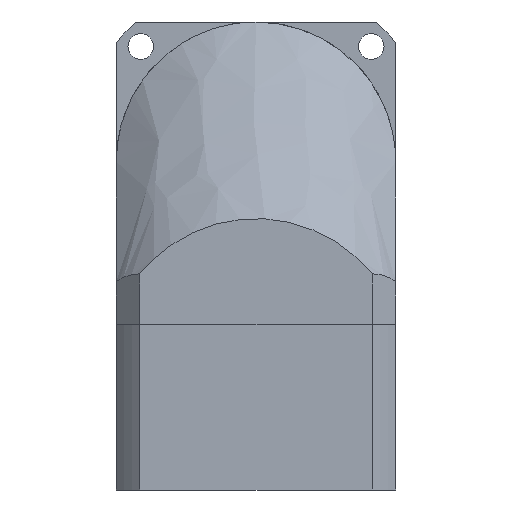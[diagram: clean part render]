
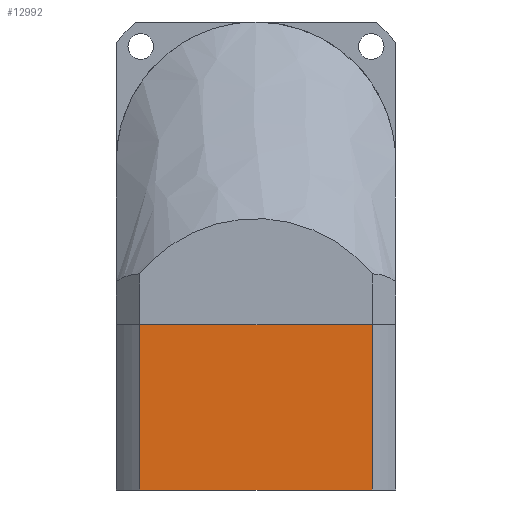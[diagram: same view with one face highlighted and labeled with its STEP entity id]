
A CAD part, front view. The second image highlights one B-rep face of the part: STEP entity #12992.
In plain terms, the highlighted planar face has unit normal (0, -1, 0).
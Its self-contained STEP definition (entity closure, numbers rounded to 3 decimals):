
#650 = VERTEX_POINT ( 'NONE', #2393 ) ;
#717 = VERTEX_POINT ( 'NONE', #13779 ) ;
#868 = VERTEX_POINT ( 'NONE', #3408 ) ;
#1683 = VECTOR ( 'NONE', #11335, 1000. ) ;
#2038 = CARTESIAN_POINT ( 'NONE',  ( 0., -30., 0. ) ) ;
#2115 = CARTESIAN_POINT ( 'NONE',  ( 0., -30., -35.5 ) ) ;
#2393 = CARTESIAN_POINT ( 'NONE',  ( 24.92, -30., -35.5 ) ) ;
#2399 = LINE ( 'NONE', #13134, #16640 ) ;
#2411 = EDGE_CURVE ( 'NONE', #18561, #650, #2399, .T. ) ;
#2553 = FACE_OUTER_BOUND ( 'NONE', #18918, .T. ) ;
#3408 = CARTESIAN_POINT ( 'NONE',  ( -24.92, -30., -35.5 ) ) ;
#3760 = LINE ( 'NONE', #2115, #20013 ) ;
#4090 = AXIS2_PLACEMENT_3D ( 'NONE', #16444, #11230, #19141 ) ;
#4419 = ORIENTED_EDGE ( 'NONE', *, *, #7458, .T. ) ;
#4983 = PLANE ( 'NONE',  #4090 ) ;
#5453 = DIRECTION ( 'NONE',  ( 0., 0., -1. ) ) ;
#7458 = EDGE_CURVE ( 'NONE', #868, #650, #3760, .T. ) ;
#8349 = LINE ( 'NONE', #11544, #1683 ) ;
#8662 = ORIENTED_EDGE ( 'NONE', *, *, #16534, .T. ) ;
#10235 = CARTESIAN_POINT ( 'NONE',  ( 24.92, -30., 0. ) ) ;
#10787 = VECTOR ( 'NONE', #11582, 1000. ) ;
#11094 = ORIENTED_EDGE ( 'NONE', *, *, #2411, .F. ) ;
#11230 = DIRECTION ( 'NONE',  ( 0., -1., 0. ) ) ;
#11335 = DIRECTION ( 'NONE',  ( 0., 0., -1. ) ) ;
#11544 = CARTESIAN_POINT ( 'NONE',  ( -24.92, -30., -35.5 ) ) ;
#11582 = DIRECTION ( 'NONE',  ( -1., 0., 0. ) ) ;
#12992 = ADVANCED_FACE ( 'NONE', ( #2553 ), #4983, .T. ) ;
#13017 = ORIENTED_EDGE ( 'NONE', *, *, #17153, .T. ) ;
#13134 = CARTESIAN_POINT ( 'NONE',  ( 24.92, -30., 0. ) ) ;
#13779 = CARTESIAN_POINT ( 'NONE',  ( -24.92, -30., 0. ) ) ;
#15925 = LINE ( 'NONE', #2038, #10787 ) ;
#16444 = CARTESIAN_POINT ( 'NONE',  ( -30., -30., -35.5 ) ) ;
#16534 = EDGE_CURVE ( 'NONE', #717, #868, #8349, .T. ) ;
#16640 = VECTOR ( 'NONE', #5453, 1000. ) ;
#17153 = EDGE_CURVE ( 'NONE', #18561, #717, #15925, .T. ) ;
#18561 = VERTEX_POINT ( 'NONE', #10235 ) ;
#18918 = EDGE_LOOP ( 'NONE', ( #8662, #4419, #11094, #13017 ) ) ;
#19141 = DIRECTION ( 'NONE',  ( 0., 0., -1. ) ) ;
#19447 = DIRECTION ( 'NONE',  ( 1., 0., 0. ) ) ;
#20013 = VECTOR ( 'NONE', #19447, 1000. ) ;
